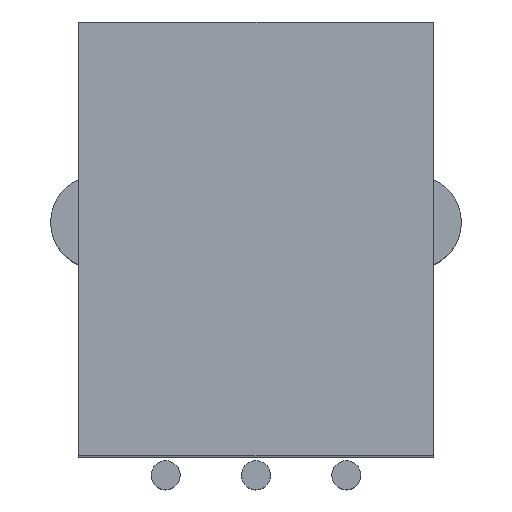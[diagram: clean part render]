
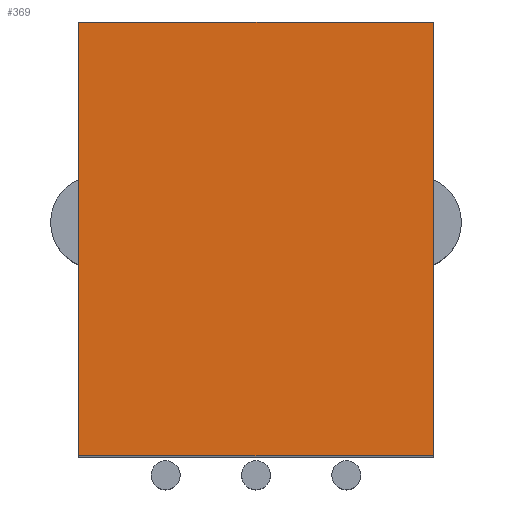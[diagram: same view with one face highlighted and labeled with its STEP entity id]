
A CAD part, top view. The second image highlights one B-rep face of the part: STEP entity #369.
In plain terms, the highlighted planar face has unit normal (0, 0, 1).
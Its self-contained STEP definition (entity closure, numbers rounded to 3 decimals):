
#55 = VERTEX_POINT('',#56);
#56 = CARTESIAN_POINT('',(-2.4,12.5,25.));
#63 = PLANE('',#64);
#64 = AXIS2_PLACEMENT_3D('',#65,#66,#67);
#65 = CARTESIAN_POINT('',(-2.4,12.5,0.));
#66 = DIRECTION('',(0.,1.,0.));
#67 = DIRECTION('',(1.,0.,0.));
#75 = PLANE('',#76);
#76 = AXIS2_PLACEMENT_3D('',#77,#78,#79);
#77 = CARTESIAN_POINT('',(-2.4,0.5,0.));
#78 = DIRECTION('',(-1.,0.,0.));
#79 = DIRECTION('',(0.,1.,0.));
#87 = EDGE_CURVE('',#55,#88,#90,.T.);
#88 = VERTEX_POINT('',#89);
#89 = CARTESIAN_POINT('',(7.4,12.5,25.));
#90 = SURFACE_CURVE('',#91,(#95,#102),.PCURVE_S1.);
#91 = LINE('',#92,#93);
#92 = CARTESIAN_POINT('',(-2.4,12.5,25.));
#93 = VECTOR('',#94,1.);
#94 = DIRECTION('',(1.,0.,0.));
#95 = PCURVE('',#63,#96);
#96 = DEFINITIONAL_REPRESENTATION('',(#97),#101);
#97 = LINE('',#98,#99);
#98 = CARTESIAN_POINT('',(0.,-25.));
#99 = VECTOR('',#100,1.);
#100 = DIRECTION('',(1.,0.));
#101 = ( GEOMETRIC_REPRESENTATION_CONTEXT(2) 
PARAMETRIC_REPRESENTATION_CONTEXT() REPRESENTATION_CONTEXT('2D SPACE',''
  ) );
#102 = PCURVE('',#103,#108);
#103 = PLANE('',#104);
#104 = AXIS2_PLACEMENT_3D('',#105,#106,#107);
#105 = CARTESIAN_POINT('',(2.5,6.5,25.));
#106 = DIRECTION('',(-0.,0.,-1.));
#107 = DIRECTION('',(0.,-1.,0.));
#108 = DEFINITIONAL_REPRESENTATION('',(#109),#113);
#109 = LINE('',#110,#111);
#110 = CARTESIAN_POINT('',(-6.,4.9));
#111 = VECTOR('',#112,1.);
#112 = DIRECTION('',(0.,-1.));
#113 = ( GEOMETRIC_REPRESENTATION_CONTEXT(2) 
PARAMETRIC_REPRESENTATION_CONTEXT() REPRESENTATION_CONTEXT('2D SPACE',''
  ) );
#131 = PLANE('',#132);
#132 = AXIS2_PLACEMENT_3D('',#133,#134,#135);
#133 = CARTESIAN_POINT('',(7.4,12.5,0.));
#134 = DIRECTION('',(1.,0.,-0.));
#135 = DIRECTION('',(0.,-1.,0.));
#173 = EDGE_CURVE('',#88,#174,#176,.T.);
#174 = VERTEX_POINT('',#175);
#175 = CARTESIAN_POINT('',(7.4,0.5,25.));
#176 = SURFACE_CURVE('',#177,(#181,#188),.PCURVE_S1.);
#177 = LINE('',#178,#179);
#178 = CARTESIAN_POINT('',(7.4,12.5,25.));
#179 = VECTOR('',#180,1.);
#180 = DIRECTION('',(0.,-1.,0.));
#181 = PCURVE('',#131,#182);
#182 = DEFINITIONAL_REPRESENTATION('',(#183),#187);
#183 = LINE('',#184,#185);
#184 = CARTESIAN_POINT('',(0.,-25.));
#185 = VECTOR('',#186,1.);
#186 = DIRECTION('',(1.,0.));
#187 = ( GEOMETRIC_REPRESENTATION_CONTEXT(2) 
PARAMETRIC_REPRESENTATION_CONTEXT() REPRESENTATION_CONTEXT('2D SPACE',''
  ) );
#188 = PCURVE('',#103,#189);
#189 = DEFINITIONAL_REPRESENTATION('',(#190),#194);
#190 = LINE('',#191,#192);
#191 = CARTESIAN_POINT('',(-6.,-4.9));
#192 = VECTOR('',#193,1.);
#193 = DIRECTION('',(1.,0.));
#194 = ( GEOMETRIC_REPRESENTATION_CONTEXT(2) 
PARAMETRIC_REPRESENTATION_CONTEXT() REPRESENTATION_CONTEXT('2D SPACE',''
  ) );
#212 = PLANE('',#213);
#213 = AXIS2_PLACEMENT_3D('',#214,#215,#216);
#214 = CARTESIAN_POINT('',(7.4,0.5,0.));
#215 = DIRECTION('',(0.,-1.,0.));
#216 = DIRECTION('',(-1.,0.,0.));
#249 = EDGE_CURVE('',#174,#250,#252,.T.);
#250 = VERTEX_POINT('',#251);
#251 = CARTESIAN_POINT('',(-2.4,0.5,25.));
#252 = SURFACE_CURVE('',#253,(#257,#264),.PCURVE_S1.);
#253 = LINE('',#254,#255);
#254 = CARTESIAN_POINT('',(7.4,0.5,25.));
#255 = VECTOR('',#256,1.);
#256 = DIRECTION('',(-1.,0.,0.));
#257 = PCURVE('',#212,#258);
#258 = DEFINITIONAL_REPRESENTATION('',(#259),#263);
#259 = LINE('',#260,#261);
#260 = CARTESIAN_POINT('',(0.,-25.));
#261 = VECTOR('',#262,1.);
#262 = DIRECTION('',(1.,0.));
#263 = ( GEOMETRIC_REPRESENTATION_CONTEXT(2) 
PARAMETRIC_REPRESENTATION_CONTEXT() REPRESENTATION_CONTEXT('2D SPACE',''
  ) );
#264 = PCURVE('',#103,#265);
#265 = DEFINITIONAL_REPRESENTATION('',(#266),#270);
#266 = LINE('',#267,#268);
#267 = CARTESIAN_POINT('',(6.,-4.9));
#268 = VECTOR('',#269,1.);
#269 = DIRECTION('',(0.,1.));
#270 = ( GEOMETRIC_REPRESENTATION_CONTEXT(2) 
PARAMETRIC_REPRESENTATION_CONTEXT() REPRESENTATION_CONTEXT('2D SPACE',''
  ) );
#320 = EDGE_CURVE('',#250,#55,#321,.T.);
#321 = SURFACE_CURVE('',#322,(#326,#333),.PCURVE_S1.);
#322 = LINE('',#323,#324);
#323 = CARTESIAN_POINT('',(-2.4,0.5,25.));
#324 = VECTOR('',#325,1.);
#325 = DIRECTION('',(0.,1.,0.));
#326 = PCURVE('',#75,#327);
#327 = DEFINITIONAL_REPRESENTATION('',(#328),#332);
#328 = LINE('',#329,#330);
#329 = CARTESIAN_POINT('',(0.,-25.));
#330 = VECTOR('',#331,1.);
#331 = DIRECTION('',(1.,0.));
#332 = ( GEOMETRIC_REPRESENTATION_CONTEXT(2) 
PARAMETRIC_REPRESENTATION_CONTEXT() REPRESENTATION_CONTEXT('2D SPACE',''
  ) );
#333 = PCURVE('',#103,#334);
#334 = DEFINITIONAL_REPRESENTATION('',(#335),#339);
#335 = LINE('',#336,#337);
#336 = CARTESIAN_POINT('',(6.,4.9));
#337 = VECTOR('',#338,1.);
#338 = DIRECTION('',(-1.,0.));
#339 = ( GEOMETRIC_REPRESENTATION_CONTEXT(2) 
PARAMETRIC_REPRESENTATION_CONTEXT() REPRESENTATION_CONTEXT('2D SPACE',''
  ) );
#369 = ADVANCED_FACE('',(#370),#103,.F.);
#370 = FACE_BOUND('',#371,.F.);
#371 = EDGE_LOOP('',(#372,#373,#374,#375));
#372 = ORIENTED_EDGE('',*,*,#87,.T.);
#373 = ORIENTED_EDGE('',*,*,#173,.T.);
#374 = ORIENTED_EDGE('',*,*,#249,.T.);
#375 = ORIENTED_EDGE('',*,*,#320,.T.);
